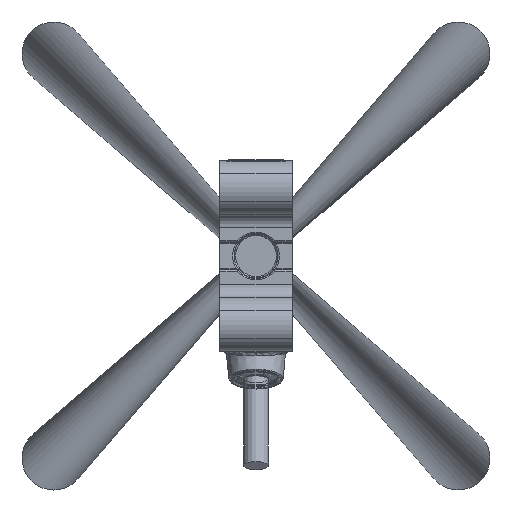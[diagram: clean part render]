
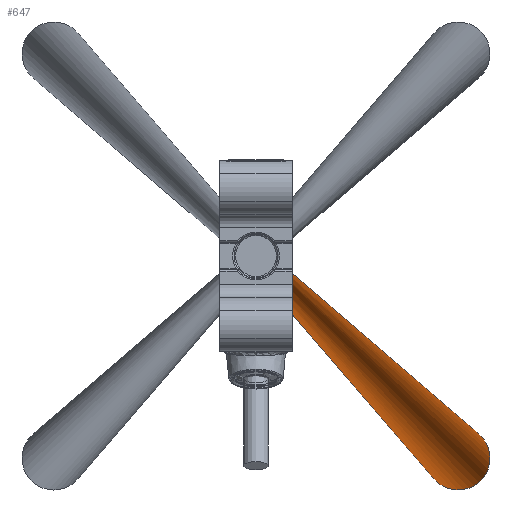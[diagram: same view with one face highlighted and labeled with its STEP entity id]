
A CAD part, left-side view. The second image highlights one B-rep face of the part: STEP entity #647.
In plain terms, the highlighted face is a revolution surface.
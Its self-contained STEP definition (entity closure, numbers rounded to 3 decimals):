
#647 = ADVANCED_FACE( '', ( #1227, #1228 ), #1229, .F. );
#1227 = FACE_OUTER_BOUND( '', #3093, .T. );
#1228 = FACE_OUTER_BOUND( '', #3094, .T. );
#1229 = SURFACE_OF_REVOLUTION( '', #3095, #3096 );
#3093 = EDGE_LOOP( '', ( #4380 ) );
#3094 = EDGE_LOOP( '', ( #4381 ) );
#3095 = B_SPLINE_CURVE_WITH_KNOTS( '', 3, ( #4382, #4383, #4384, #4385, #4386, #4387, #4388 ), .UNSPECIFIED., .F., .F., ( 4, 1, 1, 1, 4 ), ( 0., 0.167, 0.417, 0.667, 1. ), .UNSPECIFIED. );
#3096 = AXIS1_PLACEMENT( '', #4389, #4390 );
#4380 = ORIENTED_EDGE( '', *, *, #4524, .F. );
#4381 = ORIENTED_EDGE( '', *, *, #4768, .T. );
#4382 = CARTESIAN_POINT( '', ( 1.15, 0., 0. ) );
#4383 = CARTESIAN_POINT( '', ( 1.121, 0., 73.333 ) );
#4384 = CARTESIAN_POINT( '', ( 1.057, 0., 228.821 ) );
#4385 = CARTESIAN_POINT( '', ( 1.755, 0., 500.366 ) );
#4386 = CARTESIAN_POINT( '', ( 2.592, 0., 837.358 ) );
#4387 = CARTESIAN_POINT( '', ( 3.133, 0., 1053.333 ) );
#4388 = CARTESIAN_POINT( '', ( 3.5, 0., 1200. ) );
#4389 = CARTESIAN_POINT( '', ( 0., 0., 0. ) );
#4390 = DIRECTION( '', ( 0., 0., -1. ) );
#4524 = EDGE_CURVE( '', #5049, #5049, #5050, .T. );
#4768 = EDGE_CURVE( '', #5444, #5444, #5445, .T. );
#5049 = VERTEX_POINT( '', #5767 );
#5050 = CIRCLE( '', #5768, 3.5 );
#5444 = VERTEX_POINT( '', #6768 );
#5445 = CIRCLE( '', #6769, 1.15 );
#5767 = CARTESIAN_POINT( '', ( 3.5, 0., 1200. ) );
#5768 = AXIS2_PLACEMENT_3D( '', #7228, #7229, #7230 );
#6768 = CARTESIAN_POINT( '', ( 1.15, 0., 0. ) );
#6769 = AXIS2_PLACEMENT_3D( '', #7564, #7565, #7566 );
#7228 = CARTESIAN_POINT( '', ( 0., 0., 1200. ) );
#7229 = DIRECTION( '', ( 0., 0., 1. ) );
#7230 = DIRECTION( '', ( 1., 0., 0. ) );
#7564 = CARTESIAN_POINT( '', ( 0., 0., 0. ) );
#7565 = DIRECTION( '', ( 0., 0., 1. ) );
#7566 = DIRECTION( '', ( 1., 0., 0. ) );
